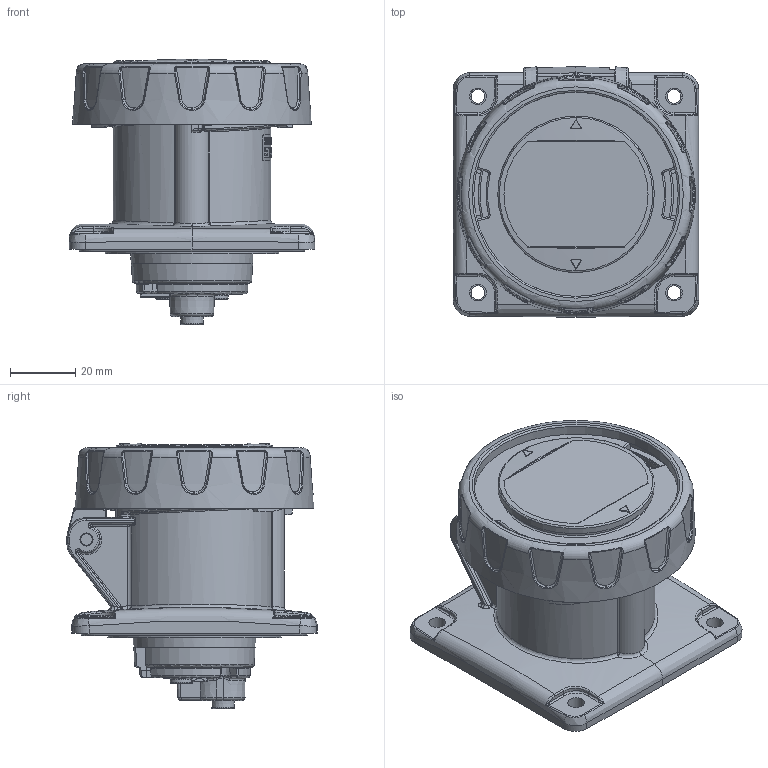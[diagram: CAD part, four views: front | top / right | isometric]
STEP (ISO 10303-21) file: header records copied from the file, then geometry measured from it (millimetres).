
FILE_DESCRIPTION(/* description */ (''),/* implementation_level */ '2;1');
FILE_NAME(/* name */ '4006948.stp',/* time_stamp */ '2021-06-10T08:41:57+02:00',/* author */ (''),/* organization */ (''),/* preprocessor_version */ 'ST-DEVELOPER v16.7',/* originating_system */ 'SIEMENS PLM Software NX 1942',/* authorisation */ '');
FILE_SCHEMA (('AUTOMOTIVE_DESIGN { 1 0 10303 214 3 1 1 1 }'));
Products named in the file (1): RGGM183C8F00h4xv
Bounding box: 75 x 76.5 x 81.17 mm (x, y, z)
Volume: 87245.8 mm3; surface area: 93657.3 mm2
Topology: 16 solids, 16 shells, 3929 faces, 10159 edges, 6217 vertices
Faces by surface type: plane 1248, bspline 864, cylinder 814, cone 369, torus 305, extrusion 209, sphere 120
Full cylindrical faces by diameter (mm): 0.2 x1, 0.4 x1, 0.998 x4, 1 x3, 2.25 x2, 3 x5, 3.2 x2, 3.5 x3, 3.6 x2, 3.8 x1, 4 x3, 4.503 x1, 5 x1, 5.1 x4, 5.14 x1, 5.7 x4, 5.8 x3, 7 x2, 7.1 x1, 9 x1, 35 x1, 44 x1, 44.9 x1, 47.828 x1
Entity records: 185587 total; most frequent: CARTESIAN_POINT 94677, ORIENTED_EDGE 19410, DIRECTION 15942, EDGE_CURVE 9705, AXIS2_PLACEMENT_3D 6208, VERTEX_POINT 6110, EDGE_LOOP 4288, ADVANCED_FACE 3928
